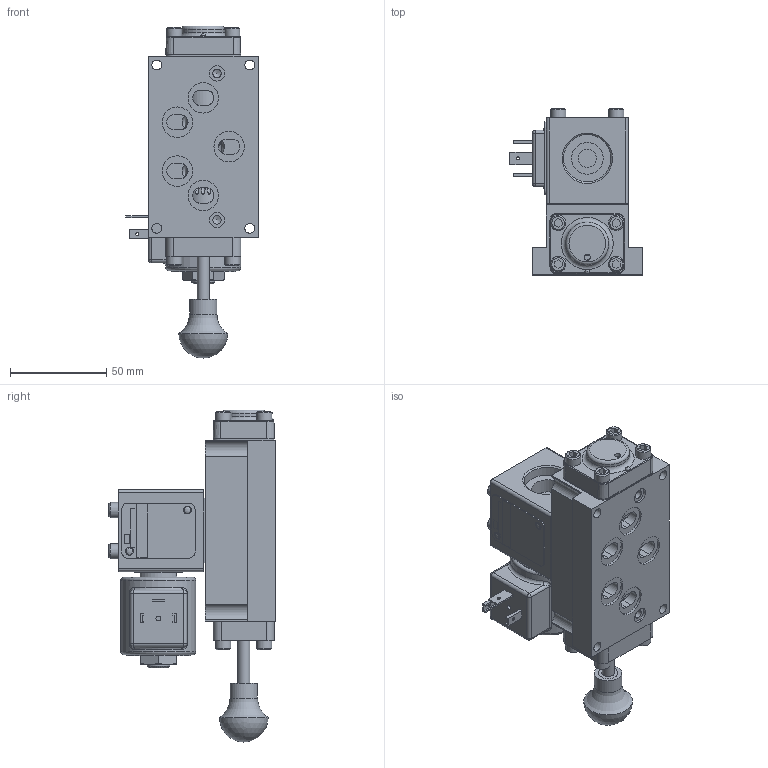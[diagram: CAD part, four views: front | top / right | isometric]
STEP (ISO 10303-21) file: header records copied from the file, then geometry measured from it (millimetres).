
FILE_DESCRIPTION(/* description */ (''),/* implementation_level */ '2;1');
FILE_NAME(/* name */ 'D:\Website Files\stp\Valves\Classic\SO\SO3PEDOS.stp',/* time_stamp */ '2018-04-03T22:32:03-04:00',/* author */ ('RMcKenna'),/* organization */ (''),/* preprocessor_version */ 'ST-DEVELOPER v17',/* originating_system */ 'Autodesk Inventor 2018',/* authorisation */ '');
FILE_SCHEMA (('AUTOMOTIVE_DESIGN { 1 0 10303 214 3 1 1 }'));
Length unit declared in the file: centimetre
Products named in the file (1): Part74
Bounding box: 68.87 x 86.58 x 172.72 mm (x, y, z)
Volume: 305921.8 mm3; surface area: 90259.1 mm2
Topology: 2 solids, 36 shells, 1357 faces, 3304 edges, 2138 vertices
Faces by surface type: plane 615, cylinder 292, cone 277, torus 101, bspline 64, sphere 8
Full cylindrical faces by diameter (mm): 1.6 x3, 2.07 x2, 2.261 x2, 2.54 x1, 2.778 x2, 3.048 x3, 3.175 x3, 3.683 x12, 3.912 x1, 3.962 x1, 3.969 x1, 4.366 x9, 4.369 x3, 4.826 x16, 4.978 x1, 5.105 x4, 5.156 x8, 5.159 x9, 5.537 x5, 6.35 x2, 7.671 x1, 7.925 x2, 7.938 x12, 7.95 x1, 8.153 x1, 9.144 x1, 9.462 x2, 9.922 x1, 11.113 x1, 11.303 x2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
Entity records: 45003 total; most frequent: CARTESIAN_POINT 11870, DIRECTION 6634, ORIENTED_EDGE 6550, EDGE_CURVE 3275, AXIS2_PLACEMENT_3D 2531, VERTEX_POINT 2138, EDGE_LOOP 1579, LINE 1572
